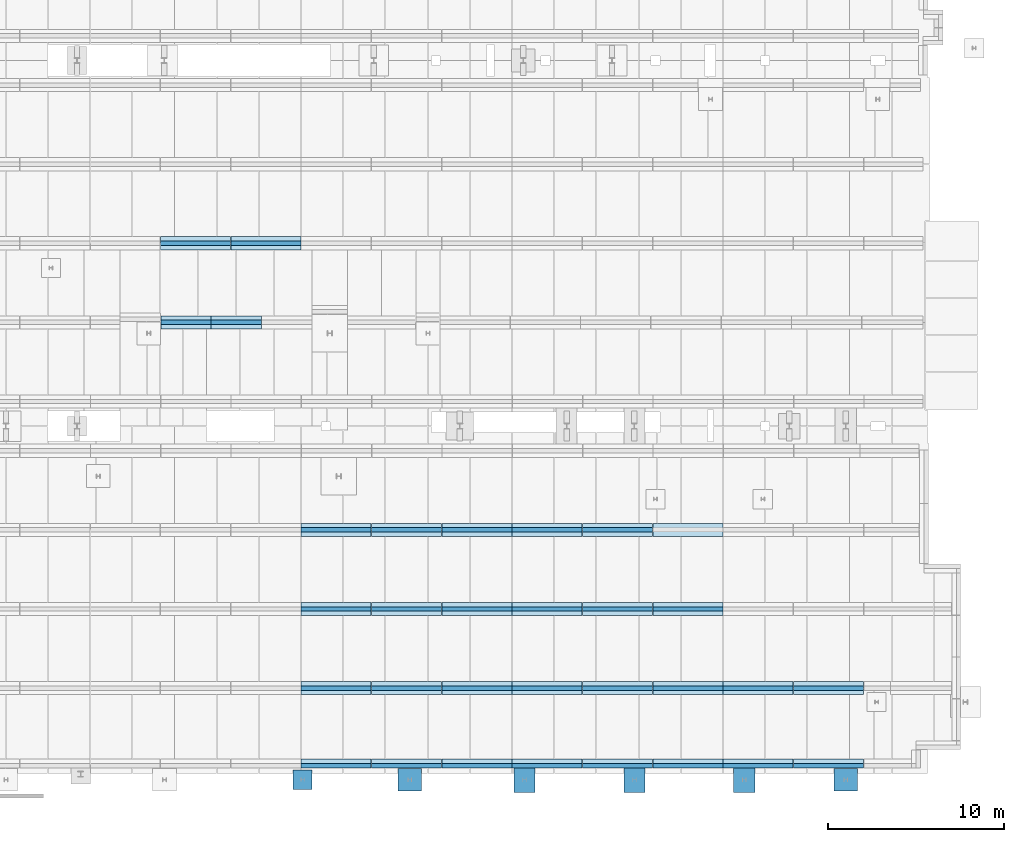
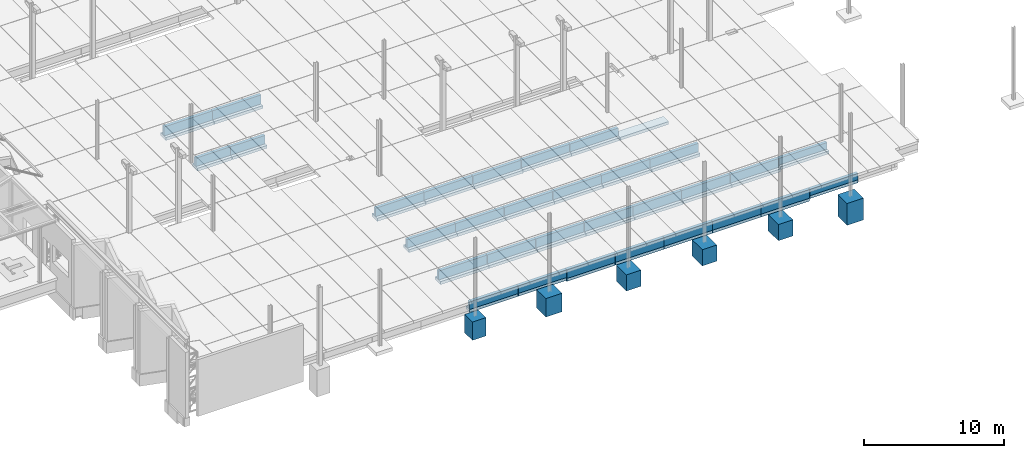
# One storey, part 3 of 59: 69 footings.
"""IFC2X3 building model written with IfcOpenShell, lengths in metres."""

import ifcopenshell
import ifcopenshell.guid

model = None  # the IFC model being written
_history = None  # IfcOwnerHistory: only IFC2X3 demands one
_inside = {}  # id of a spatial element -> (the spatial element, [elements in it])
_under = {}  # id of a project, library or spatial element -> (it, [spatial elements below it])
_declared = {}  # id of a project -> (the project, [libraries it declares])
_typed = {}  # id of a type object -> (the type object, [elements of that type])
_made_of = {}  # id of a material, layer set ... -> (it, [elements and type objects made of it])


def new_model(schema):
    """Start an empty IFC model of exactly this schema.

    Asked for "IFC4X3", IfcOpenShell would pick the latest addendum, in which some entities
    have other attributes; the version numbers below select the first issue.
    IFC2X3 requires an IfcOwnerHistory on every rooted entity: one is made here for all.
    """
    global model, _history
    if schema == "IFC4X3":
        model = ifcopenshell.file(schema_version=(4, 3, 0, 0))
    else:
        model = ifcopenshell.file(schema=schema)
    _inside.clear()
    _under.clear()
    _declared.clear()
    _typed.clear()
    _made_of.clear()
    _history = None
    if model.schema == "IFC2X3":
        org = make("IfcOrganization", Name="unknown")
        user = make(
            "IfcPersonAndOrganization",
            ThePerson=make("IfcPerson", FamilyName="unknown"),
            TheOrganization=org,
        )
        app = make(
            "IfcApplication",
            ApplicationDeveloper=org,
            Version="unknown",
            ApplicationFullName="unknown",
            ApplicationIdentifier="unknown",
        )
        _history = make(
            "IfcOwnerHistory",
            OwningUser=user,
            OwningApplication=app,
            ChangeAction="ADDED",
            CreationDate=0,
        )
    return model


def make(cls, **values):
    """One entity of the class cls with the attributes given. An attribute that is None is left unset."""
    return model.create_entity(
        cls, **{name: value for name, value in values.items() if value is not None}
    )


def entity(cls, *values):
    """Any entity or typed value of the class cls, its attributes in the order of the schema. None: left unset."""
    e = model.create_entity(cls)
    for i, value in enumerate(values):
        if value is not None:
            e[i] = value
    return e


def rooted(cls, **values):
    """An entity with a GlobalId (a new one), such as an element, a storey or a relation."""
    return make(cls, GlobalId=ifcopenshell.guid.new(), OwnerHistory=_history, **values)


def si_unit(unit_type, name, prefix=None):
    """IfcSIUnit, for example si_unit("LENGTHUNIT", "METRE", prefix="MILLI")."""
    return make("IfcSIUnit", UnitType=unit_type, Prefix=prefix, Name=name)


def converted_unit(unit_type, name, factor, base, dimensions=None, offset=None):
    """IfcConversionBasedUnit, such as the inch: factor (a typed value) times the base unit."""
    return make(
        "IfcConversionBasedUnit"
        if offset is None
        else "IfcConversionBasedUnitWithOffset",
        ConversionOffset=offset,
        Dimensions=None
        if dimensions is None
        else entity("IfcDimensionalExponents", *dimensions),
        UnitType=unit_type,
        Name=name,
        ConversionFactor=make(
            "IfcMeasureWithUnit", ValueComponent=factor, UnitComponent=base
        ),
    )


def derived_unit(unit_type, elements):
    """IfcDerivedUnit: a product of units, each with its exponent."""
    return make(
        "IfcDerivedUnit",
        Elements=[
            make("IfcDerivedUnitElement", Unit=unit, Exponent=power)
            for unit, power in elements
        ],
        UnitType=unit_type,
    )


def assignment(units):
    """IfcUnitAssignment: the units of a project."""
    return None if units is None else make("IfcUnitAssignment", Units=units)


def point(xyz):
    """IfcCartesianPoint."""
    return None if xyz is None else make("IfcCartesianPoint", Coordinates=xyz)


def direction(xyz):
    """IfcDirection."""
    return None if xyz is None else make("IfcDirection", DirectionRatios=xyz)


def frame(location, z_axis=None, x_axis=None):
    """IfcAxis2Placement3D, a coordinate frame: its origin and axes. An axis left out is left unset."""
    return make(
        "IfcAxis2Placement3D",
        Location=point(location),
        Axis=direction(z_axis),
        RefDirection=direction(x_axis),
    )


def frame_2d(location, x_axis=None):
    """IfcAxis2Placement2D, a coordinate frame in the plane: its origin and x axis."""
    return make(
        "IfcAxis2Placement2D", Location=point(location), RefDirection=direction(x_axis)
    )


def origin():
    """The frame at (0, 0, 0) with its axes left unset."""
    return frame((0.0, 0.0, 0.0))


def origin_with_axes():
    """The frame at (0, 0, 0) with the z axis (0, 0, 1) and the x axis (1, 0, 0) written out."""
    return frame((0.0, 0.0, 0.0), z_axis=(0.0, 0.0, 1.0), x_axis=(1.0, 0.0, 0.0))


def place(relative_to, where):
    """IfcLocalPlacement: puts the frame where relative to a parent placement (None: the world)."""
    return make(
        "IfcLocalPlacement", PlacementRelTo=relative_to, RelativePlacement=where
    )


def context(
    kind, dimensions, precision=None, world=None, true_north=None, identifier=None
):
    """IfcGeometricRepresentationContext, for example the 3D "Model" context."""
    return make(
        "IfcGeometricRepresentationContext",
        ContextIdentifier=identifier,
        ContextType=kind,
        CoordinateSpaceDimension=dimensions,
        Precision=precision,
        WorldCoordinateSystem=world,
        TrueNorth=true_north,
    )


def subcontext(parent, identifier, kind, view, scale=None):
    """IfcGeometricRepresentationSubContext, for example "Body" below "Model"."""
    return make(
        "IfcGeometricRepresentationSubContext",
        ContextIdentifier=identifier,
        ContextType=kind,
        ParentContext=parent,
        TargetScale=scale,
        TargetView=view,
    )


def project(units=None, contexts=None):
    """IfcProject with its units and contexts."""
    return rooted(
        "IfcProject",
        Name="project",
        RepresentationContexts=contexts,
        UnitsInContext=assignment(units),
    )


def spatial(cls, under=None, at=None, **own):
    """A site, building, storey or space (cls), placed at a placement, below another one or the project."""
    s = rooted(cls, ObjectPlacement=at, **own)
    if under is not None:
        _under.setdefault(under.id(), (under, []))[1].append(s)
    return s


def profile(cls, at=None, kind="AREA", **sizes):
    """A parametric profile (cls). Its sizes go by their IFC names, for example OverallWidth=200.0."""
    return make(cls, ProfileType=kind, Position=at, **sizes)


def rectangle(**sizes):
    """IfcRectangleProfileDef."""
    return profile("IfcRectangleProfileDef", **sizes)


def extrude(swept, where, along, depth):
    """IfcExtrudedAreaSolid: the profile swept, set in the frame where, extruded along a direction by depth."""
    return make(
        "IfcExtrudedAreaSolid",
        SweptArea=swept,
        Position=where,
        ExtrudedDirection=direction(along),
        Depth=depth,
    )


def shape(context_of_items, identifier, shape_type, items):
    """IfcShapeRepresentation: the items that make up one representation, for example the "Body"."""
    return make(
        "IfcShapeRepresentation",
        ContextOfItems=context_of_items,
        RepresentationIdentifier=identifier,
        RepresentationType=shape_type,
        Items=items,
    )


def material(Name=None, Category=None):
    """IfcMaterial."""
    return make("IfcMaterial", Name=Name, Category=Category)


def made_of(thing, what):
    """Note that an element or type object is made of a material, layer set ...; save() writes the relation."""
    if what is not None:
        _made_of.setdefault(what.id(), (what, []))[1].append(thing)
    return thing


def element(
    cls,
    number,
    at=None,
    inside=None,
    cuts=None,
    type_object=None,
    material=None,
    context=None,
    identifier="Body",
    shape_type=None,
    held_by="IfcProductDefinitionShape",
    body=None,
    shapes=None,
    **own,
):
    """One element of the class cls, such as IfcWall. Its Tag is "e" and its number.

    at: its placement. inside: the storey or other place that contains it. cuts: it is an
    opening in that element (IfcRelVoidsElement). A single representation is given by context,
    identifier, shape_type and body (its items); several are given by shapes. held_by: the class
    of the entity that holds the representations. save() writes the other relations.
    """
    e = rooted(cls, Tag="e%d" % number, ObjectPlacement=at, **own)
    if body is not None:
        shapes = [shape(context, identifier, shape_type, body)]
    if shapes is not None:
        e.Representation = make(held_by, Representations=shapes)
    if inside is not None:
        _inside.setdefault(inside.id(), (inside, []))[1].append(e)
    if cuts is not None:
        rooted(
            "IfcRelVoidsElement", RelatingBuildingElement=cuts, RelatedOpeningElement=e
        )
    if type_object is not None:
        _typed.setdefault(type_object.id(), (type_object, []))[1].append(e)
    return made_of(e, material)


def aggregate(whole, parts):
    """IfcRelAggregates: a whole, such as a stair, and the parts it consists of."""
    return rooted("IfcRelAggregates", RelatingObject=whole, RelatedObjects=parts)


def save(model, path):
    """Write the relations noted so far, then the file.

    IfcRelAggregates (storeys below a building ...), IfcRelContainedInSpatialStructure (elements
    in a storey), IfcRelDefinesByType, IfcRelAssociatesMaterial and IfcRelDeclares: one each for
    every whole, place, type object, material and project.
    """
    for whole, parts in _under.values():
        aggregate(whole, parts)
    for where, things in _inside.values():
        rooted(
            "IfcRelContainedInSpatialStructure",
            RelatedElements=things,
            RelatingStructure=where,
        )
    for kind, things in _typed.values():
        rooted("IfcRelDefinesByType", RelatedObjects=things, RelatingType=kind)
    for what, things in _made_of.values():
        rooted("IfcRelAssociatesMaterial", RelatedObjects=things, RelatingMaterial=what)
    for by, libraries in _declared.values():
        rooted("IfcRelDeclares", RelatingContext=by, RelatedDefinitions=libraries)
    model.write(path)


model = new_model("IFC2X3")

# Units and contexts
model_context = context("Model", 3, precision=1e-05, world=origin())
body_context = subcontext(model_context, "Body", "Model", "MODEL_VIEW")
ifc_project = project(units=[si_unit("LENGTHUNIT", "METRE"), si_unit("AREAUNIT", "SQUARE_METRE"), si_unit("VOLUMEUNIT", "CUBIC_METRE"), si_unit("MASSUNIT", "GRAM", prefix="KILO"), converted_unit("PLANEANGLEUNIT", "DEGREE", entity("IfcPlaneAngleMeasure", 0.0174532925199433), si_unit("PLANEANGLEUNIT", "RADIAN"), dimensions=[0, 0, 0, 0, 0, 0, 0]), derived_unit("THERMALTRANSMITTANCEUNIT", [(si_unit("POWERUNIT", "WATT"), 1), (si_unit("THERMODYNAMICTEMPERATUREUNIT", "KELVIN"), -1), (si_unit("LENGTHUNIT", "METRE"), -2)]), derived_unit("VOLUMETRICFLOWRATEUNIT", [(si_unit("LENGTHUNIT", "METRE"), 3), (converted_unit("TIMEUNIT", "hour", entity("IfcTimeMeasure", 3600.0), si_unit("TIMEUNIT", "SECOND"), dimensions=[0, 0, 1, 0, 0, 0, 0]), -1), (si_unit("LENGTHUNIT", "METRE"), -1)])], contexts=[model_context])

# Site, building, storey
site_placement = place(None, origin())
site = spatial("IfcSite", under=ifc_project, at=site_placement, Name="TWP_Speiseverteilzentrum SBW VZ II", CompositionType="ELEMENT")
building_placement = place(site_placement, origin())
building = spatial("IfcBuilding", under=site, at=building_placement, Name="Speiseverteilzentrum SBW VZ II", CompositionType="ELEMENT")
storey_placement = place(building_placement, frame((0.0, 0.0, 1.7307)))
storey = spatial("IfcBuildingStorey", under=building, at=storey_placement, Name="EG_Produktion_FFB", CompositionType="ELEMENT", Elevation=1.7307)

# Footings
ifc_material_1 = material(Name="Stahlbeton")
footing_1_placement = place(storey_placement, frame((63.9000000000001, 10.0401485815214, -3.62)))
element("IfcFooting", 1, at=footing_1_placement, inside=storey, material=ifc_material_1, Name="Stb.-Einzelfundament", ObjectType="COLUMN_FOUNDATION", PredefinedType="USERDEFINED", context=body_context, shape_type="SweptSolid", body=[
    extrude(rectangle(XDim=1.35, YDim=1.3, at=frame_2d((0.675, 0.65), x_axis=(1.0, 0.0))), origin_with_axes(), (0.0, 0.0, 1.0), 1.9),
])
ifc_material_2 = material(Name="Stahlbeton")
footing_2_placement = place(storey_placement, frame((58.2000000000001, 9.96514858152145, -2.92)))
element("IfcFooting", 2, at=footing_2_placement, inside=storey, material=ifc_material_2, Name="Stb.-Einzelfundament", ObjectType="COLUMN_FOUNDATION", PredefinedType="USERDEFINED", context=body_context, shape_type="SweptSolid", body=[
    extrude(rectangle(XDim=1.2, YDim=1.45, at=frame_2d((0.6, 0.725), x_axis=(1.0, 0.0))), origin_with_axes(), (0.0, 0.0, 1.0), 1.4),
])
ifc_material_3 = material(Name="Stahlbeton")
footing_3_placement = place(storey_placement, frame((51.9500000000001, 9.96514858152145, -2.92)))
element("IfcFooting", 3, at=footing_3_placement, inside=storey, material=ifc_material_3, Name="Stb.-Einzelfundament", ObjectType="COLUMN_FOUNDATION", PredefinedType="USERDEFINED", context=body_context, shape_type="SweptSolid", body=[
    extrude(rectangle(XDim=1.2, YDim=1.45, at=frame_2d((0.6, 0.725), x_axis=(1.0, 0.0))), origin_with_axes(), (0.0, 0.0, 1.0), 1.4),
])
ifc_material_4 = material(Name="Stahlbeton")
footing_4_placement = place(storey_placement, frame((45.7000000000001, 9.96514858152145, -2.92)))
element("IfcFooting", 4, at=footing_4_placement, inside=storey, material=ifc_material_4, Name="Stb.-Einzelfundament", ObjectType="COLUMN_FOUNDATION", PredefinedType="USERDEFINED", context=body_context, shape_type="SweptSolid", body=[
    extrude(rectangle(XDim=1.2, YDim=1.45, at=frame_2d((0.6, 0.725), x_axis=(1.0, 0.0))), origin_with_axes(), (0.0, 0.0, 1.0), 1.4),
])
ifc_material_5 = material(Name="Stahlbeton")
footing_5_placement = place(storey_placement, frame((39.1, 10.0401485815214, -2.92)))
element("IfcFooting", 5, at=footing_5_placement, inside=storey, material=ifc_material_5, Name="Stb.-Einzelfundament", ObjectType="COLUMN_FOUNDATION", PredefinedType="USERDEFINED", context=body_context, shape_type="SweptSolid", body=[
    extrude(rectangle(XDim=1.35, YDim=1.3, at=frame_2d((0.675, 0.65), x_axis=(1.0, 0.0))), origin_with_axes(), (0.0, 0.0, 1.0), 1.6),
])
ifc_material_6 = material(Name="Stahlbeton")
footing_6_placement = place(storey_placement, frame((33.1250000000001, 10.1401485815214, -2.92)))
element("IfcFooting", 6, at=footing_6_placement, inside=storey, material=ifc_material_6, Name="Stb.-Einzelfundament", ObjectType="COLUMN_FOUNDATION", PredefinedType="USERDEFINED", context=body_context, shape_type="SweptSolid", body=[
    extrude(rectangle(XDim=1.1, YDim=1.1, at=frame_2d((0.55, 0.55), x_axis=(1.0, 0.0))), origin_with_axes(), (0.0, 0.0, 1.0), 1.6),
])
ifc_material_7 = material(Name="Stahlbetonfertigteil")
footing_7_placement = place(storey_placement, frame((61.5999999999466, 11.3601485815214, -1.04)))
element("IfcFooting", 7, at=footing_7_placement, inside=storey, material=ifc_material_7, Name="Stahlbetonfertigteilfundament", PredefinedType="STRIP_FOOTING", context=body_context, shape_type="SweptSolid", body=[
    extrude(rectangle(XDim=0.25, YDim=0.57, at=frame_2d((0.125, 0.285), x_axis=(1.0, 0.0))), frame((0.0, 0.0, 0.0), z_axis=(1.0, 0.0, 0.0), x_axis=(0.0, 1.0, 0.0)), (0.0, 0.0, 1.0), 3.98),
])
ifc_material_8 = material(Name="Stahlbetonfertigteil")
footing_8_placement = place(storey_placement, frame((61.5999999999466, 11.3601485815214, -1.29)))
element("IfcFooting", 8, at=footing_8_placement, inside=storey, material=ifc_material_8, Name="Stahlbetonfertigteilfundament", PredefinedType="STRIP_FOOTING", context=body_context, shape_type="SweptSolid", body=[
    extrude(rectangle(XDim=0.5, YDim=0.25, at=frame_2d((0.25, 0.125), x_axis=(1.0, 0.0))), frame((0.0, 0.0, 0.0), z_axis=(1.0, 0.0, 0.0), x_axis=(0.0, 1.0, 0.0)), (0.0, 0.0, 1.0), 3.98),
])
ifc_material_9 = material(Name="Stahlbetonfertigteil")
footing_9_placement = place(storey_placement, frame((37.5999999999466, 11.3601485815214, -1.14)))
element("IfcFooting", 9, at=footing_9_placement, inside=storey, material=ifc_material_9, Name="Stahlbetonfertigteilfundament", PredefinedType="STRIP_FOOTING", context=body_context, shape_type="SweptSolid", body=[
    extrude(rectangle(XDim=0.25, YDim=0.67, at=frame_2d((0.125, 0.335), x_axis=(1.0, 0.0))), frame((0.0, 0.0, 0.0), z_axis=(1.0, 0.0, 0.0), x_axis=(0.0, 1.0, 0.0)), (0.0, 0.0, 1.0), 3.98),
])
ifc_material_10 = material(Name="Stahlbetonfertigteil")
footing_10_placement = place(storey_placement, frame((37.5999999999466, 11.3601485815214, -1.39)))
element("IfcFooting", 10, at=footing_10_placement, inside=storey, material=ifc_material_10, Name="Stahlbetonfertigteilfundament", PredefinedType="STRIP_FOOTING", context=body_context, shape_type="SweptSolid", body=[
    extrude(rectangle(XDim=0.5, YDim=0.25, at=frame_2d((0.25, 0.125), x_axis=(1.0, 0.0))), frame((0.0, 0.0, 0.0), z_axis=(1.0, 0.0, 0.0), x_axis=(0.0, 1.0, 0.0)), (0.0, 0.0, 1.0), 3.98),
])
ifc_material_11 = material(Name="Stahlbetonfertigteil")
footing_11_placement = place(storey_placement, frame((53.5999999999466, 11.3601485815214, -1.24)))
element("IfcFooting", 11, at=footing_11_placement, inside=storey, material=ifc_material_11, Name="Stahlbetonfertigteilfundament", PredefinedType="STRIP_FOOTING", context=body_context, shape_type="SweptSolid", body=[
    extrude(rectangle(XDim=0.25, YDim=0.77, at=frame_2d((0.125, 0.385), x_axis=(1.0, 0.0))), frame((0.0, 0.0, 0.0), z_axis=(1.0, 0.0, 0.0), x_axis=(0.0, 1.0, 0.0)), (0.0, 0.0, 1.0), 3.98),
])
ifc_material_12 = material(Name="Stahlbetonfertigteil")
footing_12_placement = place(storey_placement, frame((53.5999999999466, 11.3601485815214, -1.49)))
element("IfcFooting", 12, at=footing_12_placement, inside=storey, material=ifc_material_12, Name="Stahlbetonfertigteilfundament", PredefinedType="STRIP_FOOTING", context=body_context, shape_type="SweptSolid", body=[
    extrude(rectangle(XDim=0.5, YDim=0.25, at=frame_2d((0.25, 0.125), x_axis=(1.0, 0.0))), frame((0.0, 0.0, 0.0), z_axis=(1.0, 0.0, 0.0), x_axis=(0.0, 1.0, 0.0)), (0.0, 0.0, 1.0), 3.98),
])
ifc_material_13 = material(Name="Stahlbetonfertigteil")
footing_13_placement = place(storey_placement, frame((33.5999999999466, 11.3601485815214, -1.14)))
element("IfcFooting", 13, at=footing_13_placement, inside=storey, material=ifc_material_13, Name="Stahlbetonfertigteilfundament", PredefinedType="STRIP_FOOTING", context=body_context, shape_type="SweptSolid", body=[
    extrude(rectangle(XDim=0.25, YDim=0.67, at=frame_2d((0.125, 0.335), x_axis=(1.0, 0.0))), frame((0.0, 0.0, 0.0), z_axis=(1.0, 0.0, 0.0), x_axis=(0.0, 1.0, 0.0)), (0.0, 0.0, 1.0), 3.98),
])
ifc_material_14 = material(Name="Stahlbetonfertigteil")
footing_14_placement = place(storey_placement, frame((33.5999999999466, 11.3601485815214, -1.39)))
element("IfcFooting", 14, at=footing_14_placement, inside=storey, material=ifc_material_14, Name="Stahlbetonfertigteilfundament", PredefinedType="STRIP_FOOTING", context=body_context, shape_type="SweptSolid", body=[
    extrude(rectangle(XDim=0.5, YDim=0.25, at=frame_2d((0.25, 0.125), x_axis=(1.0, 0.0))), frame((0.0, 0.0, 0.0), z_axis=(1.0, 0.0, 0.0), x_axis=(0.0, 1.0, 0.0)), (0.0, 0.0, 1.0), 3.98),
])
ifc_material_15 = material(Name="Stahlbetonfertigteil")
footing_15_placement = place(storey_placement, frame((41.5999999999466, 11.3601485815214, -1.24)))
element("IfcFooting", 15, at=footing_15_placement, inside=storey, material=ifc_material_15, Name="Stahlbetonfertigteilfundament", PredefinedType="STRIP_FOOTING", context=body_context, shape_type="SweptSolid", body=[
    extrude(rectangle(XDim=0.25, YDim=0.77, at=frame_2d((0.125, 0.385), x_axis=(1.0, 0.0))), frame((0.0, 0.0, 0.0), z_axis=(1.0, 0.0, 0.0), x_axis=(0.0, 1.0, 0.0)), (0.0, 0.0, 1.0), 3.98),
])
ifc_material_16 = material(Name="Stahlbetonfertigteil")
footing_16_placement = place(storey_placement, frame((41.5999999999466, 11.3601485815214, -1.49)))
element("IfcFooting", 16, at=footing_16_placement, inside=storey, material=ifc_material_16, Name="Stahlbetonfertigteilfundament", PredefinedType="STRIP_FOOTING", context=body_context, shape_type="SweptSolid", body=[
    extrude(rectangle(XDim=0.5, YDim=0.25, at=frame_2d((0.25, 0.125), x_axis=(1.0, 0.0))), frame((0.0, 0.0, 0.0), z_axis=(1.0, 0.0, 0.0), x_axis=(0.0, 1.0, 0.0)), (0.0, 0.0, 1.0), 3.98),
])
ifc_material_17 = material(Name="Stahlbetonfertigteil")
footing_17_placement = place(storey_placement, frame((45.5999999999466, 11.3601485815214, -1.24)))
element("IfcFooting", 17, at=footing_17_placement, inside=storey, material=ifc_material_17, Name="Stahlbetonfertigteilfundament", PredefinedType="STRIP_FOOTING", context=body_context, shape_type="SweptSolid", body=[
    extrude(rectangle(XDim=0.25, YDim=0.77, at=frame_2d((0.125, 0.385), x_axis=(1.0, 0.0))), frame((0.0, 0.0, 0.0), z_axis=(1.0, 0.0, 0.0), x_axis=(0.0, 1.0, 0.0)), (0.0, 0.0, 1.0), 3.98),
])
ifc_material_18 = material(Name="Stahlbetonfertigteil")
footing_18_placement = place(storey_placement, frame((45.5999999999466, 11.3601485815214, -1.49)))
element("IfcFooting", 18, at=footing_18_placement, inside=storey, material=ifc_material_18, Name="Stahlbetonfertigteilfundament", PredefinedType="STRIP_FOOTING", context=body_context, shape_type="SweptSolid", body=[
    extrude(rectangle(XDim=0.5, YDim=0.25, at=frame_2d((0.25, 0.125), x_axis=(1.0, 0.0))), frame((0.0, 0.0, 0.0), z_axis=(1.0, 0.0, 0.0), x_axis=(0.0, 1.0, 0.0)), (0.0, 0.0, 1.0), 3.98),
])
ifc_material_19 = material(Name="Stahlbetonfertigteil")
footing_19_placement = place(storey_placement, frame((49.5999999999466, 11.3601485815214, -1.24)))
element("IfcFooting", 19, at=footing_19_placement, inside=storey, material=ifc_material_19, Name="Stahlbetonfertigteilfundament", PredefinedType="STRIP_FOOTING", context=body_context, shape_type="SweptSolid", body=[
    extrude(rectangle(XDim=0.25, YDim=0.77, at=frame_2d((0.125, 0.385), x_axis=(1.0, 0.0))), frame((0.0, 0.0, 0.0), z_axis=(1.0, 0.0, 0.0), x_axis=(0.0, 1.0, 0.0)), (0.0, 0.0, 1.0), 3.98),
])
ifc_material_20 = material(Name="Stahlbetonfertigteil")
footing_20_placement = place(storey_placement, frame((49.5999999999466, 11.3601485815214, -1.49)))
element("IfcFooting", 20, at=footing_20_placement, inside=storey, material=ifc_material_20, Name="Stahlbetonfertigteilfundament", PredefinedType="STRIP_FOOTING", context=body_context, shape_type="SweptSolid", body=[
    extrude(rectangle(XDim=0.5, YDim=0.25, at=frame_2d((0.25, 0.125), x_axis=(1.0, 0.0))), frame((0.0, 0.0, 0.0), z_axis=(1.0, 0.0, 0.0), x_axis=(0.0, 1.0, 0.0)), (0.0, 0.0, 1.0), 3.98),
])
ifc_material_21 = material(Name="Stahlbetonfertigteil")
footing_21_placement = place(storey_placement, frame((57.5999999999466, 11.3601485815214, -1.24)))
element("IfcFooting", 21, at=footing_21_placement, inside=storey, material=ifc_material_21, Name="Stahlbetonfertigteilfundament", PredefinedType="STRIP_FOOTING", context=body_context, shape_type="SweptSolid", body=[
    extrude(rectangle(XDim=0.25, YDim=0.77, at=frame_2d((0.125, 0.385), x_axis=(1.0, 0.0))), frame((0.0, 0.0, 0.0), z_axis=(1.0, 0.0, 0.0), x_axis=(0.0, 1.0, 0.0)), (0.0, 0.0, 1.0), 3.98),
])
ifc_material_22 = material(Name="Stahlbetonfertigteil")
footing_22_placement = place(storey_placement, frame((57.5999999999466, 11.3601485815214, -1.49)))
element("IfcFooting", 22, at=footing_22_placement, inside=storey, material=ifc_material_22, Name="Stahlbetonfertigteilfundament", PredefinedType="STRIP_FOOTING", context=body_context, shape_type="SweptSolid", body=[
    extrude(rectangle(XDim=0.5, YDim=0.25, at=frame_2d((0.25, 0.125), x_axis=(1.0, 0.0))), frame((0.0, 0.0, 0.0), z_axis=(1.0, 0.0, 0.0), x_axis=(0.0, 1.0, 0.0)), (0.0, 0.0, 1.0), 3.98),
])
ifc_material_23 = material(Name="Stahlbetonfertigteil")
footing_23_placement = place(storey_placement, frame((53.5999999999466, 24.5250000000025, -1.4)))
element("IfcFooting", 23, at=footing_23_placement, inside=storey, material=ifc_material_23, Name="Stahlbetonfertigteilfundament", PredefinedType="STRIP_FOOTING", context=body_context, shape_type="SweptSolid", body=[
    extrude(rectangle(XDim=0.75, YDim=0.25, at=frame_2d((0.375, 0.125), x_axis=(1.0, 0.0))), frame((0.0, 0.0, 0.0), z_axis=(1.0, 0.0, 0.0), x_axis=(0.0, 1.0, 0.0)), (0.0, 0.0, 1.0), 3.98),
])
ifc_material_24 = material(Name="Stahlbetonfertigteil")
footing_24_placement = place(storey_placement, frame((49.5999999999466, 24.5250000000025, -1.4)))
element("IfcFooting", 24, at=footing_24_placement, inside=storey, material=ifc_material_24, Name="Stahlbetonfertigteilfundament", PredefinedType="STRIP_FOOTING", context=body_context, shape_type="SweptSolid", body=[
    extrude(rectangle(XDim=0.75, YDim=0.25, at=frame_2d((0.375, 0.125), x_axis=(1.0, 0.0))), frame((0.0, 0.0, 0.0), z_axis=(1.0, 0.0, 0.0), x_axis=(0.0, 1.0, 0.0)), (0.0, 0.0, 1.0), 3.98),
])
ifc_material_25 = material(Name="Stahlbetonfertigteil")
footing_25_placement = place(storey_placement, frame((49.5999999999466, 24.7750000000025, -1.15)))
element("IfcFooting", 25, at=footing_25_placement, inside=storey, material=ifc_material_25, Name="Stahlbetonfertigteilfundament", PredefinedType="STRIP_FOOTING", context=body_context, shape_type="SweptSolid", body=[
    extrude(rectangle(XDim=0.25, YDim=0.68, at=frame_2d((0.125, 0.34), x_axis=(1.0, 0.0))), frame((0.0, 0.0, 0.0), z_axis=(1.0, 0.0, 0.0), x_axis=(0.0, 1.0, 0.0)), (0.0, 0.0, 1.0), 3.98),
])
ifc_material_26 = material(Name="Stahlbetonfertigteil")
footing_26_placement = place(storey_placement, frame((45.5999999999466, 24.5250000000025, -1.4)))
element("IfcFooting", 26, at=footing_26_placement, inside=storey, material=ifc_material_26, Name="Stahlbetonfertigteilfundament", PredefinedType="STRIP_FOOTING", context=body_context, shape_type="SweptSolid", body=[
    extrude(rectangle(XDim=0.75, YDim=0.25, at=frame_2d((0.375, 0.125), x_axis=(1.0, 0.0))), frame((0.0, 0.0, 0.0), z_axis=(1.0, 0.0, 0.0), x_axis=(0.0, 1.0, 0.0)), (0.0, 0.0, 1.0), 3.98),
])
ifc_material_27 = material(Name="Stahlbetonfertigteil")
footing_27_placement = place(storey_placement, frame((45.5999999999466, 24.7750000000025, -1.15)))
element("IfcFooting", 27, at=footing_27_placement, inside=storey, material=ifc_material_27, Name="Stahlbetonfertigteilfundament", PredefinedType="STRIP_FOOTING", context=body_context, shape_type="SweptSolid", body=[
    extrude(rectangle(XDim=0.25, YDim=0.68, at=frame_2d((0.125, 0.34), x_axis=(1.0, 0.0))), frame((0.0, 0.0, 0.0), z_axis=(1.0, 0.0, 0.0), x_axis=(0.0, 1.0, 0.0)), (0.0, 0.0, 1.0), 3.98),
])
ifc_material_28 = material(Name="Stahlbetonfertigteil")
footing_28_placement = place(storey_placement, frame((41.5999999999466, 24.5250000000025, -1.45)))
element("IfcFooting", 28, at=footing_28_placement, inside=storey, material=ifc_material_28, Name="Stahlbetonfertigteilfundament", PredefinedType="STRIP_FOOTING", context=body_context, shape_type="SweptSolid", body=[
    extrude(rectangle(XDim=0.75, YDim=0.25, at=frame_2d((0.375, 0.125), x_axis=(1.0, 0.0))), frame((0.0, 0.0, 0.0), z_axis=(1.0, 0.0, 0.0), x_axis=(0.0, 1.0, 0.0)), (0.0, 0.0, 1.0), 3.98),
])
ifc_material_29 = material(Name="Stahlbetonfertigteil")
footing_29_placement = place(storey_placement, frame((41.5999999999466, 24.7750000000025, -1.2)))
element("IfcFooting", 29, at=footing_29_placement, inside=storey, material=ifc_material_29, Name="Stahlbetonfertigteilfundament", PredefinedType="STRIP_FOOTING", context=body_context, shape_type="SweptSolid", body=[
    extrude(rectangle(XDim=0.25, YDim=0.73, at=frame_2d((0.125, 0.365), x_axis=(1.0, 0.0))), frame((0.0, 0.0, 0.0), z_axis=(1.0, 0.0, 0.0), x_axis=(0.0, 1.0, 0.0)), (0.0, 0.0, 1.0), 3.98),
])
ifc_material_30 = material(Name="Stahlbetonfertigteil")
footing_30_placement = place(storey_placement, frame((37.5999999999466, 24.5250000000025, -1.4)))
element("IfcFooting", 30, at=footing_30_placement, inside=storey, material=ifc_material_30, Name="Stahlbetonfertigteilfundament", PredefinedType="STRIP_FOOTING", context=body_context, shape_type="SweptSolid", body=[
    extrude(rectangle(XDim=0.75, YDim=0.25, at=frame_2d((0.375, 0.125), x_axis=(1.0, 0.0))), frame((0.0, 0.0, 0.0), z_axis=(1.0, 0.0, 0.0), x_axis=(0.0, 1.0, 0.0)), (0.0, 0.0, 1.0), 3.98),
])
ifc_material_31 = material(Name="Stahlbetonfertigteil")
footing_31_placement = place(storey_placement, frame((37.5999999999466, 24.7750000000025, -1.15)))
element("IfcFooting", 31, at=footing_31_placement, inside=storey, material=ifc_material_31, Name="Stahlbetonfertigteilfundament", PredefinedType="STRIP_FOOTING", context=body_context, shape_type="SweptSolid", body=[
    extrude(rectangle(XDim=0.25, YDim=0.68, at=frame_2d((0.125, 0.34), x_axis=(1.0, 0.0))), frame((0.0, 0.0, 0.0), z_axis=(1.0, 0.0, 0.0), x_axis=(0.0, 1.0, 0.0)), (0.0, 0.0, 1.0), 3.98),
])
ifc_material_32 = material(Name="Stahlbetonfertigteil")
footing_32_placement = place(storey_placement, frame((33.5999999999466, 24.5250000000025, -1.45)))
element("IfcFooting", 32, at=footing_32_placement, inside=storey, material=ifc_material_32, Name="Stahlbetonfertigteilfundament", PredefinedType="STRIP_FOOTING", context=body_context, shape_type="SweptSolid", body=[
    extrude(rectangle(XDim=0.75, YDim=0.25, at=frame_2d((0.375, 0.125), x_axis=(1.0, 0.0))), frame((0.0, 0.0, 0.0), z_axis=(1.0, 0.0, 0.0), x_axis=(0.0, 1.0, 0.0)), (0.0, 0.0, 1.0), 3.98),
])
ifc_material_33 = material(Name="Stahlbetonfertigteil")
footing_33_placement = place(storey_placement, frame((33.5999999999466, 24.7750000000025, -1.2)))
element("IfcFooting", 33, at=footing_33_placement, inside=storey, material=ifc_material_33, Name="Stahlbetonfertigteilfundament", PredefinedType="STRIP_FOOTING", context=body_context, shape_type="SweptSolid", body=[
    extrude(rectangle(XDim=0.25, YDim=0.73, at=frame_2d((0.125, 0.365), x_axis=(1.0, 0.0))), frame((0.0, 0.0, 0.0), z_axis=(1.0, 0.0, 0.0), x_axis=(0.0, 1.0, 0.0)), (0.0, 0.0, 1.0), 3.98),
])
ifc_material_34 = material(Name="Stahlbetonfertigteil")
footing_34_placement = place(storey_placement, frame((53.5999999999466, 20.0250000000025, -1.45)))
element("IfcFooting", 34, at=footing_34_placement, inside=storey, material=ifc_material_34, Name="Stahlbetonfertigteilfundament", PredefinedType="STRIP_FOOTING", context=body_context, shape_type="SweptSolid", body=[
    extrude(rectangle(XDim=0.75, YDim=0.25, at=frame_2d((0.375, 0.125), x_axis=(1.0, 0.0))), frame((0.0, 0.0, 0.0), z_axis=(1.0, 0.0, 0.0), x_axis=(0.0, 1.0, 0.0)), (0.0, 0.0, 1.0), 3.98),
])
ifc_material_35 = material(Name="Stahlbetonfertigteil")
footing_35_placement = place(storey_placement, frame((53.5999999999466, 20.2750000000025, -1.2)))
element("IfcFooting", 35, at=footing_35_placement, inside=storey, material=ifc_material_35, Name="Stahlbetonfertigteilfundament", PredefinedType="STRIP_FOOTING", context=body_context, shape_type="SweptSolid", body=[
    extrude(rectangle(XDim=0.25, YDim=0.73, at=frame_2d((0.125, 0.365), x_axis=(1.0, 0.0))), frame((0.0, 0.0, 0.0), z_axis=(1.0, 0.0, 0.0), x_axis=(0.0, 1.0, 0.0)), (0.0, 0.0, 1.0), 3.98),
])
ifc_material_36 = material(Name="Stahlbetonfertigteil")
footing_36_placement = place(storey_placement, frame((49.5999999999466, 20.0250000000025, -1.45)))
element("IfcFooting", 36, at=footing_36_placement, inside=storey, material=ifc_material_36, Name="Stahlbetonfertigteilfundament", PredefinedType="STRIP_FOOTING", context=body_context, shape_type="SweptSolid", body=[
    extrude(rectangle(XDim=0.75, YDim=0.25, at=frame_2d((0.375, 0.125), x_axis=(1.0, 0.0))), frame((0.0, 0.0, 0.0), z_axis=(1.0, 0.0, 0.0), x_axis=(0.0, 1.0, 0.0)), (0.0, 0.0, 1.0), 3.98),
])
ifc_material_37 = material(Name="Stahlbetonfertigteil")
footing_37_placement = place(storey_placement, frame((49.5999999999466, 20.2750000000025, -1.2)))
element("IfcFooting", 37, at=footing_37_placement, inside=storey, material=ifc_material_37, Name="Stahlbetonfertigteilfundament", PredefinedType="STRIP_FOOTING", context=body_context, shape_type="SweptSolid", body=[
    extrude(rectangle(XDim=0.25, YDim=0.73, at=frame_2d((0.125, 0.365), x_axis=(1.0, 0.0))), frame((0.0, 0.0, 0.0), z_axis=(1.0, 0.0, 0.0), x_axis=(0.0, 1.0, 0.0)), (0.0, 0.0, 1.0), 3.98),
])
ifc_material_38 = material(Name="Stahlbetonfertigteil")
footing_38_placement = place(storey_placement, frame((45.5999999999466, 20.0250000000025, -1.45)))
element("IfcFooting", 38, at=footing_38_placement, inside=storey, material=ifc_material_38, Name="Stahlbetonfertigteilfundament", PredefinedType="STRIP_FOOTING", context=body_context, shape_type="SweptSolid", body=[
    extrude(rectangle(XDim=0.75, YDim=0.25, at=frame_2d((0.375, 0.125), x_axis=(1.0, 0.0))), frame((0.0, 0.0, 0.0), z_axis=(1.0, 0.0, 0.0), x_axis=(0.0, 1.0, 0.0)), (0.0, 0.0, 1.0), 3.98),
])
ifc_material_39 = material(Name="Stahlbetonfertigteil")
footing_39_placement = place(storey_placement, frame((45.5999999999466, 20.2750000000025, -1.2)))
element("IfcFooting", 39, at=footing_39_placement, inside=storey, material=ifc_material_39, Name="Stahlbetonfertigteilfundament", PredefinedType="STRIP_FOOTING", context=body_context, shape_type="SweptSolid", body=[
    extrude(rectangle(XDim=0.25, YDim=0.73, at=frame_2d((0.125, 0.365), x_axis=(1.0, 0.0))), frame((0.0, 0.0, 0.0), z_axis=(1.0, 0.0, 0.0), x_axis=(0.0, 1.0, 0.0)), (0.0, 0.0, 1.0), 3.98),
])
ifc_material_40 = material(Name="Stahlbetonfertigteil")
footing_40_placement = place(storey_placement, frame((41.5999999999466, 20.0250000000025, -1.45)))
element("IfcFooting", 40, at=footing_40_placement, inside=storey, material=ifc_material_40, Name="Stahlbetonfertigteilfundament", PredefinedType="STRIP_FOOTING", context=body_context, shape_type="SweptSolid", body=[
    extrude(rectangle(XDim=0.75, YDim=0.25, at=frame_2d((0.375, 0.125), x_axis=(1.0, 0.0))), frame((0.0, 0.0, 0.0), z_axis=(1.0, 0.0, 0.0), x_axis=(0.0, 1.0, 0.0)), (0.0, 0.0, 1.0), 3.98),
])
ifc_material_41 = material(Name="Stahlbetonfertigteil")
footing_41_placement = place(storey_placement, frame((41.5999999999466, 20.2750000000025, -1.2)))
element("IfcFooting", 41, at=footing_41_placement, inside=storey, material=ifc_material_41, Name="Stahlbetonfertigteilfundament", PredefinedType="STRIP_FOOTING", context=body_context, shape_type="SweptSolid", body=[
    extrude(rectangle(XDim=0.25, YDim=0.73, at=frame_2d((0.125, 0.365), x_axis=(1.0, 0.0))), frame((0.0, 0.0, 0.0), z_axis=(1.0, 0.0, 0.0), x_axis=(0.0, 1.0, 0.0)), (0.0, 0.0, 1.0), 3.98),
])
ifc_material_42 = material(Name="Stahlbetonfertigteil")
footing_42_placement = place(storey_placement, frame((37.5999999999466, 20.0250000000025, -1.45)))
element("IfcFooting", 42, at=footing_42_placement, inside=storey, material=ifc_material_42, Name="Stahlbetonfertigteilfundament", PredefinedType="STRIP_FOOTING", context=body_context, shape_type="SweptSolid", body=[
    extrude(rectangle(XDim=0.75, YDim=0.25, at=frame_2d((0.375, 0.125), x_axis=(1.0, 0.0))), frame((0.0, 0.0, 0.0), z_axis=(1.0, 0.0, 0.0), x_axis=(0.0, 1.0, 0.0)), (0.0, 0.0, 1.0), 3.98),
])
ifc_material_43 = material(Name="Stahlbetonfertigteil")
footing_43_placement = place(storey_placement, frame((37.5999999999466, 20.2750000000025, -1.2)))
element("IfcFooting", 43, at=footing_43_placement, inside=storey, material=ifc_material_43, Name="Stahlbetonfertigteilfundament", PredefinedType="STRIP_FOOTING", context=body_context, shape_type="SweptSolid", body=[
    extrude(rectangle(XDim=0.25, YDim=0.73, at=frame_2d((0.125, 0.365), x_axis=(1.0, 0.0))), frame((0.0, 0.0, 0.0), z_axis=(1.0, 0.0, 0.0), x_axis=(0.0, 1.0, 0.0)), (0.0, 0.0, 1.0), 3.98),
])
ifc_material_44 = material(Name="Stahlbetonfertigteil")
footing_44_placement = place(storey_placement, frame((33.5999999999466, 20.0250000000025, -1.45)))
element("IfcFooting", 44, at=footing_44_placement, inside=storey, material=ifc_material_44, Name="Stahlbetonfertigteilfundament", PredefinedType="STRIP_FOOTING", context=body_context, shape_type="SweptSolid", body=[
    extrude(rectangle(XDim=0.75, YDim=0.25, at=frame_2d((0.375, 0.125), x_axis=(1.0, 0.0))), frame((0.0, 0.0, 0.0), z_axis=(1.0, 0.0, 0.0), x_axis=(0.0, 1.0, 0.0)), (0.0, 0.0, 1.0), 3.98),
])
ifc_material_45 = material(Name="Stahlbetonfertigteil")
footing_45_placement = place(storey_placement, frame((33.5999999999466, 20.2750000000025, -1.2)))
element("IfcFooting", 45, at=footing_45_placement, inside=storey, material=ifc_material_45, Name="Stahlbetonfertigteilfundament", PredefinedType="STRIP_FOOTING", context=body_context, shape_type="SweptSolid", body=[
    extrude(rectangle(XDim=0.25, YDim=0.73, at=frame_2d((0.125, 0.365), x_axis=(1.0, 0.0))), frame((0.0, 0.0, 0.0), z_axis=(1.0, 0.0, 0.0), x_axis=(0.0, 1.0, 0.0)), (0.0, 0.0, 1.0), 3.98),
])
ifc_material_46 = material(Name="Stahlbetonfertigteil")
footing_46_placement = place(storey_placement, frame((61.5999999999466, 15.5250000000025, -1.3)))
element("IfcFooting", 46, at=footing_46_placement, inside=storey, material=ifc_material_46, Name="Stahlbetonfertigteilfundament", PredefinedType="STRIP_FOOTING", context=body_context, shape_type="SweptSolid", body=[
    extrude(rectangle(XDim=0.75, YDim=0.25, at=frame_2d((0.375, 0.125), x_axis=(1.0, 0.0))), frame((0.0, 0.0, 0.0), z_axis=(1.0, 0.0, 0.0), x_axis=(0.0, 1.0, 0.0)), (0.0, 0.0, 1.0), 3.98),
])
ifc_material_47 = material(Name="Stahlbetonfertigteil")
footing_47_placement = place(storey_placement, frame((61.5999999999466, 15.7750000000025, -1.05)))
element("IfcFooting", 47, at=footing_47_placement, inside=storey, material=ifc_material_47, Name="Stahlbetonfertigteilfundament", PredefinedType="STRIP_FOOTING", context=body_context, shape_type="SweptSolid", body=[
    extrude(rectangle(XDim=0.25, YDim=0.58, at=frame_2d((0.125, 0.29), x_axis=(1.0, 0.0))), frame((0.0, 0.0, 0.0), z_axis=(1.0, 0.0, 0.0), x_axis=(0.0, 1.0, 0.0)), (0.0, 0.0, 1.0), 3.98),
])
ifc_material_48 = material(Name="Stahlbetonfertigteil")
footing_48_placement = place(storey_placement, frame((57.5999999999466, 15.5250000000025, -1.47)))
element("IfcFooting", 48, at=footing_48_placement, inside=storey, material=ifc_material_48, Name="Stahlbetonfertigteilfundament", PredefinedType="STRIP_FOOTING", context=body_context, shape_type="SweptSolid", body=[
    extrude(rectangle(XDim=0.75, YDim=0.25, at=frame_2d((0.375, 0.125), x_axis=(1.0, 0.0))), frame((0.0, 0.0, 0.0), z_axis=(1.0, 0.0, 0.0), x_axis=(0.0, 1.0, 0.0)), (0.0, 0.0, 1.0), 3.98),
])
ifc_material_49 = material(Name="Stahlbetonfertigteil")
footing_49_placement = place(storey_placement, frame((57.5999999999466, 15.7750000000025, -1.22)))
element("IfcFooting", 49, at=footing_49_placement, inside=storey, material=ifc_material_49, Name="Stahlbetonfertigteilfundament", PredefinedType="STRIP_FOOTING", context=body_context, shape_type="SweptSolid", body=[
    extrude(rectangle(XDim=0.25, YDim=0.75, at=frame_2d((0.125, 0.375), x_axis=(1.0, 0.0))), frame((0.0, 0.0, 0.0), z_axis=(1.0, 0.0, 0.0), x_axis=(0.0, 1.0, 0.0)), (0.0, 0.0, 1.0), 3.98),
])
ifc_material_50 = material(Name="Stahlbetonfertigteil")
footing_50_placement = place(storey_placement, frame((53.5999999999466, 15.5250000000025, -1.47)))
element("IfcFooting", 50, at=footing_50_placement, inside=storey, material=ifc_material_50, Name="Stahlbetonfertigteilfundament", PredefinedType="STRIP_FOOTING", context=body_context, shape_type="SweptSolid", body=[
    extrude(rectangle(XDim=0.75, YDim=0.25, at=frame_2d((0.375, 0.125), x_axis=(1.0, 0.0))), frame((0.0, 0.0, 0.0), z_axis=(1.0, 0.0, 0.0), x_axis=(0.0, 1.0, 0.0)), (0.0, 0.0, 1.0), 3.98),
])
ifc_material_51 = material(Name="Stahlbetonfertigteil")
footing_51_placement = place(storey_placement, frame((53.5999999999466, 15.7750000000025, -1.22)))
element("IfcFooting", 51, at=footing_51_placement, inside=storey, material=ifc_material_51, Name="Stahlbetonfertigteilfundament", PredefinedType="STRIP_FOOTING", context=body_context, shape_type="SweptSolid", body=[
    extrude(rectangle(XDim=0.25, YDim=0.75, at=frame_2d((0.125, 0.375), x_axis=(1.0, 0.0))), frame((0.0, 0.0, 0.0), z_axis=(1.0, 0.0, 0.0), x_axis=(0.0, 1.0, 0.0)), (0.0, 0.0, 1.0), 3.98),
])
ifc_material_52 = material(Name="Stahlbetonfertigteil")
footing_52_placement = place(storey_placement, frame((49.5999999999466, 15.5250000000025, -1.5)))
element("IfcFooting", 52, at=footing_52_placement, inside=storey, material=ifc_material_52, Name="Stahlbetonfertigteilfundament", PredefinedType="STRIP_FOOTING", context=body_context, shape_type="SweptSolid", body=[
    extrude(rectangle(XDim=0.75, YDim=0.25, at=frame_2d((0.375, 0.125), x_axis=(1.0, 0.0))), frame((0.0, 0.0, 0.0), z_axis=(1.0, 0.0, 0.0), x_axis=(0.0, 1.0, 0.0)), (0.0, 0.0, 1.0), 3.98),
])
ifc_material_53 = material(Name="Stahlbetonfertigteil")
footing_53_placement = place(storey_placement, frame((49.5999999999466, 15.7750000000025, -1.25)))
element("IfcFooting", 53, at=footing_53_placement, inside=storey, material=ifc_material_53, Name="Stahlbetonfertigteilfundament", PredefinedType="STRIP_FOOTING", context=body_context, shape_type="SweptSolid", body=[
    extrude(rectangle(XDim=0.25, YDim=0.78, at=frame_2d((0.125, 0.39), x_axis=(1.0, 0.0))), frame((0.0, 0.0, 0.0), z_axis=(1.0, 0.0, 0.0), x_axis=(0.0, 1.0, 0.0)), (0.0, 0.0, 1.0), 3.98),
])
ifc_material_54 = material(Name="Stahlbetonfertigteil")
footing_54_placement = place(storey_placement, frame((45.5999999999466, 15.5250000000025, -1.5)))
element("IfcFooting", 54, at=footing_54_placement, inside=storey, material=ifc_material_54, Name="Stahlbetonfertigteilfundament", PredefinedType="STRIP_FOOTING", context=body_context, shape_type="SweptSolid", body=[
    extrude(rectangle(XDim=0.75, YDim=0.25, at=frame_2d((0.375, 0.125), x_axis=(1.0, 0.0))), frame((0.0, 0.0, 0.0), z_axis=(1.0, 0.0, 0.0), x_axis=(0.0, 1.0, 0.0)), (0.0, 0.0, 1.0), 3.98),
])
ifc_material_55 = material(Name="Stahlbetonfertigteil")
footing_55_placement = place(storey_placement, frame((45.5999999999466, 15.7750000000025, -1.25)))
element("IfcFooting", 55, at=footing_55_placement, inside=storey, material=ifc_material_55, Name="Stahlbetonfertigteilfundament", PredefinedType="STRIP_FOOTING", context=body_context, shape_type="SweptSolid", body=[
    extrude(rectangle(XDim=0.25, YDim=0.78, at=frame_2d((0.125, 0.39), x_axis=(1.0, 0.0))), frame((0.0, 0.0, 0.0), z_axis=(1.0, 0.0, 0.0), x_axis=(0.0, 1.0, 0.0)), (0.0, 0.0, 1.0), 3.98),
])
ifc_material_56 = material(Name="Stahlbetonfertigteil")
footing_56_placement = place(storey_placement, frame((41.5999999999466, 15.5250000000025, -1.5)))
element("IfcFooting", 56, at=footing_56_placement, inside=storey, material=ifc_material_56, Name="Stahlbetonfertigteilfundament", PredefinedType="STRIP_FOOTING", context=body_context, shape_type="SweptSolid", body=[
    extrude(rectangle(XDim=0.75, YDim=0.25, at=frame_2d((0.375, 0.125), x_axis=(1.0, 0.0))), frame((0.0, 0.0, 0.0), z_axis=(1.0, 0.0, 0.0), x_axis=(0.0, 1.0, 0.0)), (0.0, 0.0, 1.0), 3.98),
])
ifc_material_57 = material(Name="Stahlbetonfertigteil")
footing_57_placement = place(storey_placement, frame((41.5999999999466, 15.7750000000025, -1.25)))
element("IfcFooting", 57, at=footing_57_placement, inside=storey, material=ifc_material_57, Name="Stahlbetonfertigteilfundament", PredefinedType="STRIP_FOOTING", context=body_context, shape_type="SweptSolid", body=[
    extrude(rectangle(XDim=0.25, YDim=0.78, at=frame_2d((0.125, 0.39), x_axis=(1.0, 0.0))), frame((0.0, 0.0, 0.0), z_axis=(1.0, 0.0, 0.0), x_axis=(0.0, 1.0, 0.0)), (0.0, 0.0, 1.0), 3.98),
])
ifc_material_58 = material(Name="Stahlbetonfertigteil")
footing_58_placement = place(storey_placement, frame((37.5999999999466, 15.5250000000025, -1.5)))
element("IfcFooting", 58, at=footing_58_placement, inside=storey, material=ifc_material_58, Name="Stahlbetonfertigteilfundament", PredefinedType="STRIP_FOOTING", context=body_context, shape_type="SweptSolid", body=[
    extrude(rectangle(XDim=0.75, YDim=0.25, at=frame_2d((0.375, 0.125), x_axis=(1.0, 0.0))), frame((0.0, 0.0, 0.0), z_axis=(1.0, 0.0, 0.0), x_axis=(0.0, 1.0, 0.0)), (0.0, 0.0, 1.0), 3.98),
])
ifc_material_59 = material(Name="Stahlbetonfertigteil")
footing_59_placement = place(storey_placement, frame((37.5999999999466, 15.7750000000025, -1.25)))
element("IfcFooting", 59, at=footing_59_placement, inside=storey, material=ifc_material_59, Name="Stahlbetonfertigteilfundament", PredefinedType="STRIP_FOOTING", context=body_context, shape_type="SweptSolid", body=[
    extrude(rectangle(XDim=0.25, YDim=0.78, at=frame_2d((0.125, 0.39), x_axis=(1.0, 0.0))), frame((0.0, 0.0, 0.0), z_axis=(1.0, 0.0, 0.0), x_axis=(0.0, 1.0, 0.0)), (0.0, 0.0, 1.0), 3.98),
])
ifc_material_60 = material(Name="Stahlbetonfertigteil")
footing_60_placement = place(storey_placement, frame((33.5999999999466, 15.5250000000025, -1.5)))
element("IfcFooting", 60, at=footing_60_placement, inside=storey, material=ifc_material_60, Name="Stahlbetonfertigteilfundament", PredefinedType="STRIP_FOOTING", context=body_context, shape_type="SweptSolid", body=[
    extrude(rectangle(XDim=0.75, YDim=0.25, at=frame_2d((0.375, 0.125), x_axis=(1.0, 0.0))), frame((0.0, 0.0, 0.0), z_axis=(1.0, 0.0, 0.0), x_axis=(0.0, 1.0, 0.0)), (0.0, 0.0, 1.0), 3.98),
])
ifc_material_61 = material(Name="Stahlbetonfertigteil")
footing_61_placement = place(storey_placement, frame((33.5999999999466, 15.7750000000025, -1.25)))
element("IfcFooting", 61, at=footing_61_placement, inside=storey, material=ifc_material_61, Name="Stahlbetonfertigteilfundament", PredefinedType="STRIP_FOOTING", context=body_context, shape_type="SweptSolid", body=[
    extrude(rectangle(XDim=0.25, YDim=0.78, at=frame_2d((0.125, 0.39), x_axis=(1.0, 0.0))), frame((0.0, 0.0, 0.0), z_axis=(1.0, 0.0, 0.0), x_axis=(0.0, 1.0, 0.0)), (0.0, 0.0, 1.0), 3.98),
])
ifc_material_62 = material(Name="Stahlbetonfertigteil")
footing_62_placement = place(storey_placement, frame((25.5999999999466, 41.0750000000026, -1.25)))
element("IfcFooting", 62, at=footing_62_placement, inside=storey, material=ifc_material_62, Name="Stahlbetonfertigteilfundament", PredefinedType="STRIP_FOOTING", context=body_context, shape_type="SweptSolid", body=[
    extrude(rectangle(XDim=0.25, YDim=0.78, at=frame_2d((0.125, 0.39), x_axis=(1.0, 0.0))), frame((0.0, 0.0, 0.0), z_axis=(1.0, 0.0, 0.0), x_axis=(0.0, 1.0, 0.0)), (0.0, 0.0, 1.0), 3.98),
])
ifc_material_63 = material(Name="Stahlbetonfertigteil")
footing_63_placement = place(storey_placement, frame((25.5999999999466, 40.8250000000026, -1.5)))
element("IfcFooting", 63, at=footing_63_placement, inside=storey, material=ifc_material_63, Name="Stahlbetonfertigteilfundament", PredefinedType="STRIP_FOOTING", context=body_context, shape_type="SweptSolid", body=[
    extrude(rectangle(XDim=0.75, YDim=0.25, at=frame_2d((0.375, 0.125), x_axis=(1.0, 0.0))), frame((0.0, 0.0, 0.0), z_axis=(1.0, 0.0, 0.0), x_axis=(0.0, 1.0, 0.0)), (0.0, 0.0, 1.0), 3.98),
])
ifc_material_64 = material(Name="Stahlbetonfertigteil")
footing_64_placement = place(storey_placement, frame((29.5999999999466, 41.0750000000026, -1.25)))
element("IfcFooting", 64, at=footing_64_placement, inside=storey, material=ifc_material_64, Name="Stahlbetonfertigteilfundament", PredefinedType="STRIP_FOOTING", context=body_context, shape_type="SweptSolid", body=[
    extrude(rectangle(XDim=0.25, YDim=0.78, at=frame_2d((0.125, 0.39), x_axis=(1.0, 0.0))), frame((0.0, 0.0, 0.0), z_axis=(1.0, 0.0, 0.0), x_axis=(0.0, 1.0, 0.0)), (0.0, 0.0, 1.0), 3.98),
])
ifc_material_65 = material(Name="Stahlbetonfertigteil")
footing_65_placement = place(storey_placement, frame((29.5999999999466, 40.8250000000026, -1.5)))
element("IfcFooting", 65, at=footing_65_placement, inside=storey, material=ifc_material_65, Name="Stahlbetonfertigteilfundament", PredefinedType="STRIP_FOOTING", context=body_context, shape_type="SweptSolid", body=[
    extrude(rectangle(XDim=0.75, YDim=0.25, at=frame_2d((0.375, 0.125), x_axis=(1.0, 0.0))), frame((0.0, 0.0, 0.0), z_axis=(1.0, 0.0, 0.0), x_axis=(0.0, 1.0, 0.0)), (0.0, 0.0, 1.0), 3.98),
])
ifc_material_66 = material(Name="Stahlbetonfertigteil")
footing_66_placement = place(storey_placement, frame((25.6198606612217, 36.5750000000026, -1.2)))
element("IfcFooting", 66, at=footing_66_placement, inside=storey, material=ifc_material_66, Name="Stahlbetonfertigteilfundament", PredefinedType="STRIP_FOOTING", context=body_context, shape_type="SweptSolid", body=[
    extrude(rectangle(XDim=0.25, YDim=0.73, at=frame_2d((0.125, 0.365), x_axis=(1.0, 0.0))), frame((0.0, 0.0, 0.0), z_axis=(1.0, 0.0, 0.0), x_axis=(0.0, 1.0, 0.0)), (0.0, 0.0, 1.0), 2.83996589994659),
])
ifc_material_67 = material(Name="Stahlbetonfertigteil")
footing_67_placement = place(storey_placement, frame((25.6198606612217, 36.3250000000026, -1.45)))
element("IfcFooting", 67, at=footing_67_placement, inside=storey, material=ifc_material_67, Name="Stahlbetonfertigteilfundament", PredefinedType="STRIP_FOOTING", context=body_context, shape_type="SweptSolid", body=[
    extrude(rectangle(XDim=0.75, YDim=0.25, at=frame_2d((0.375, 0.125), x_axis=(1.0, 0.0))), frame((0.0, 0.0, 0.0), z_axis=(1.0, 0.0, 0.0), x_axis=(0.0, 1.0, 0.0)), (0.0, 0.0, 1.0), 2.83996589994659),
])
ifc_material_68 = material(Name="Stahlbetonfertigteil")
footing_68_placement = place(storey_placement, frame((28.4798265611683, 36.3250000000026, -1.45)))
element("IfcFooting", 68, at=footing_68_placement, inside=storey, material=ifc_material_68, Name="Stahlbetonfertigteilfundament", PredefinedType="STRIP_FOOTING", context=body_context, shape_type="SweptSolid", body=[
    extrude(rectangle(XDim=0.75, YDim=0.25, at=frame_2d((0.375, 0.125), x_axis=(1.0, 0.0))), frame((0.0, 0.0, 0.0), z_axis=(1.0, 0.0, 0.0), x_axis=(0.0, 1.0, 0.0)), (0.0, 0.0, 1.0), 2.84996589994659),
])
ifc_material_69 = material(Name="Stahlbetonfertigteil")
footing_69_placement = place(storey_placement, frame((28.4798265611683, 36.5750000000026, -1.2)))
element("IfcFooting", 69, at=footing_69_placement, inside=storey, material=ifc_material_69, Name="Stahlbetonfertigteilfundament", PredefinedType="STRIP_FOOTING", context=body_context, shape_type="SweptSolid", body=[
    extrude(rectangle(XDim=0.25, YDim=0.73, at=frame_2d((0.125, 0.365), x_axis=(1.0, 0.0))), frame((0.0, 0.0, 0.0), z_axis=(1.0, 0.0, 0.0), x_axis=(0.0, 1.0, 0.0)), (0.0, 0.0, 1.0), 2.84996589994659),
])

save(model, "model.ifc")
